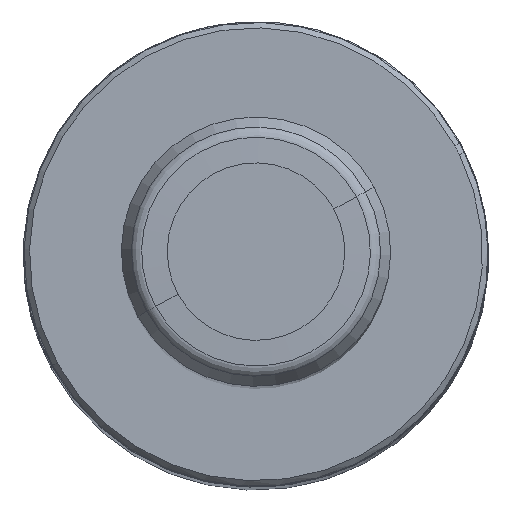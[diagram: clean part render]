
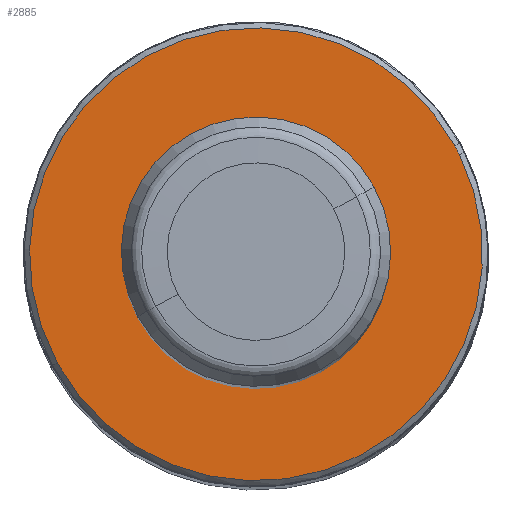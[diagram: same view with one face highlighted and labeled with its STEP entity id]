
A CAD part, top view. The second image highlights one B-rep face of the part: STEP entity #2885.
In plain terms, the highlighted planar face has unit normal (0, 0, 1).
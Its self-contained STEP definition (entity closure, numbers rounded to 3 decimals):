
#2811=CARTESIAN_POINT('Vertex',(-16.235,-8.869,154.)) ;
#2814=CARTESIAN_POINT('Axis2P3D Location',(0.,0.,154.)) ;
#2818=CARTESIAN_POINT('Vertex',(16.235,8.869,154.)) ;
#2842=CARTESIAN_POINT('Vertex',(16.613,8.141,154.)) ;
#2845=CARTESIAN_POINT('Axis2P3D Location',(0.,0.,154.)) ;
#2862=CARTESIAN_POINT('Axis2P3D Location',(0.,0.,154.)) ;
#2875=CARTESIAN_POINT('Axis2P3D Location',(19.,0.,154.)) ;
#2815=DIRECTION('Axis2P3D Direction',(0.,0.,-1.)) ;
#2846=DIRECTION('Axis2P3D Direction',(0.,0.,-1.)) ;
#2863=DIRECTION('Axis2P3D Direction',(0.,0.,-1.)) ;
#2876=DIRECTION('Axis2P3D Direction',(0.,0.,1.)) ;
#2877=DIRECTION('Axis2P3D XDirection',(1.,0.,0.)) ;
#2816=AXIS2_PLACEMENT_3D('Circle Axis2P3D',#2814,#2815,$) ;
#2847=AXIS2_PLACEMENT_3D('Circle Axis2P3D',#2845,#2846,$) ;
#2864=AXIS2_PLACEMENT_3D('Circle Axis2P3D',#2862,#2863,$) ;
#2878=AXIS2_PLACEMENT_3D('Plane Axis2P3D',#2875,#2876,#2877) ;
#2881=ORIENTED_EDGE('',*,*,#2866,.T.) ;
#2882=ORIENTED_EDGE('',*,*,#2849,.T.) ;
#2883=ORIENTED_EDGE('',*,*,#2820,.T.) ;
#2885=ADVANCED_FACE('',(#2884),#2879,.T.) ;
#2817=CIRCLE('generated circle',#2816,18.5) ;
#2848=CIRCLE('generated circle',#2847,18.5) ;
#2865=CIRCLE('generated circle',#2864,18.5) ;
#2820=EDGE_CURVE('',#2819,#2812,#2817,.F.) ;
#2849=EDGE_CURVE('',#2843,#2819,#2848,.F.) ;
#2866=EDGE_CURVE('',#2812,#2843,#2865,.F.) ;
#2880=EDGE_LOOP('',(#2881,#2882,#2883)) ;
#2884=FACE_OUTER_BOUND('',#2880,.T.) ;
#2879=PLANE('Plane',#2878) ;
#2812=VERTEX_POINT('',#2811) ;
#2819=VERTEX_POINT('',#2818) ;
#2843=VERTEX_POINT('',#2842) ;
